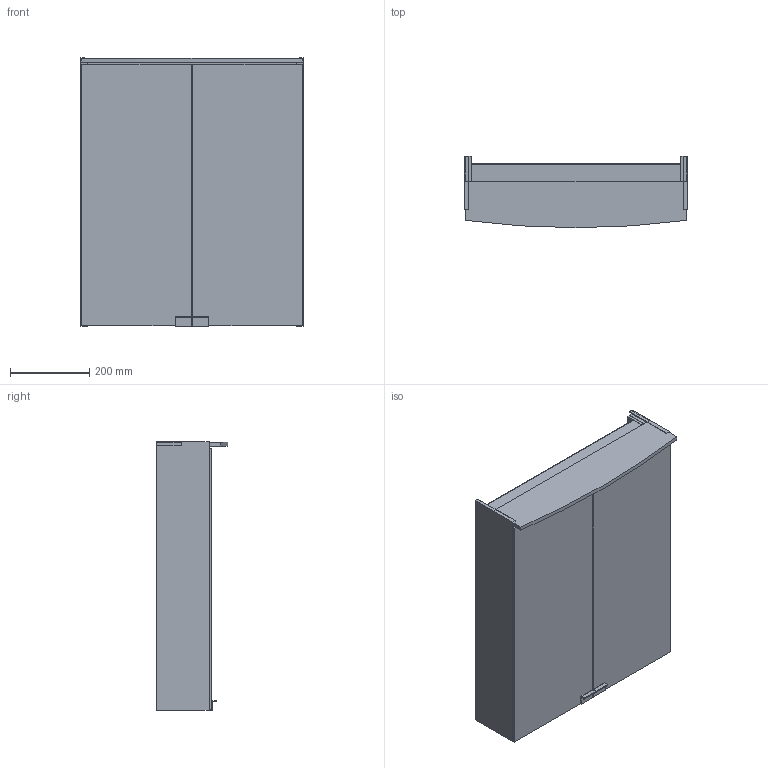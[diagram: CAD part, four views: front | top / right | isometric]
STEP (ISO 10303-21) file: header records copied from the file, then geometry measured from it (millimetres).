
FILE_DESCRIPTION(/* description */ (''),/* implementation_level */ '2;1');
FILE_NAME(/* name */ 'C:\Planerdaten\Export PLA\500.258.00.1\stp\500258.stp',/* time_stamp */ '2020-01-13T15:45:59+01:00',/* author */ ('JANAN'),/* organization */ (''),/* preprocessor_version */ 'ST-DEVELOPER v16.13',/* originating_system */ 'Autodesk Inventor 2018',/* authorisation */ '');
FILE_SCHEMA (('AUTOMOTIVE_DESIGN { 1 0 10303 214 3 1 1 }'));
Length unit declared in the file: millimetre
Products named in the file (1): SpglSchrk Ge+OptB B55 m/Bel 2-Tür w
Bounding box: 560 x 180 x 677 mm (x, y, z)
Volume: 10191538 mm3; surface area: 2575993.2 mm2
Topology: 3 solids, 3 shells, 90 faces, 250 edges, 166 vertices
Faces by surface type: plane 89, cylinder 1
Entity records: 2965 total; most frequent: CARTESIAN_POINT 507, ORIENTED_EDGE 500, DIRECTION 434, EDGE_CURVE 250, LINE 248, VECTOR 248, VERTEX_POINT 166, STYLED_ITEM 93
